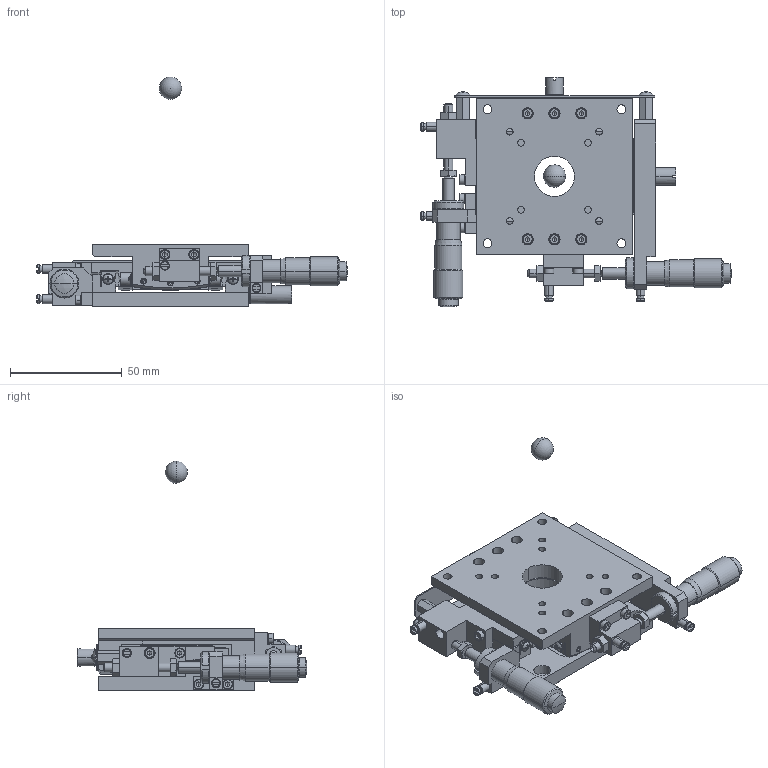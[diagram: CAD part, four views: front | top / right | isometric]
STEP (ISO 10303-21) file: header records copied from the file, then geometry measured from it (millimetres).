
FILE_DESCRIPTION (( 'STEP AP203' ), '1' );
FILE_NAME ('ST07A-S1W.STEP', '2009-10-01T05:39:18', ( ' ' ), ( ' ' ), 'SwSTEP 2.0', 'SolidWorks 2009', '' );
FILE_SCHEMA (( 'CONFIG_CONTROL_DESIGN' ));
Products named in the file (13): MICROMETERHEAD(SHS4-13RN)spindle; DP002651-1010-00-Part-1; DP002651-1030-00; ST07A-S1W; 海外製_SHS4-13RN; 海外製_SHS4-13RN-1; MICROMETERHEAD(SHS4-13RN)femalescrew; MICROMETERHEAD(SHS4-13RN)spindle-1; DP002651-1010-00; DP002651-1030-00-Part-1; DP002651-1020-00; DP002651-1020-00-Part-1; ST07A-S1W.sldasm-Part-1
Assembly tree (12 placements, depth 4):
  ST07A-S1W
    ST07A-S1W.sldasm-Part-1
    海外製_SHS4-13RN-1
      MICROMETERHEAD(SHS4-13RN)femalescrew
        MICROMETERHEAD(SHS4-13RN)spindle-1
    海外製_SHS4-13RN
      MICROMETERHEAD(SHS4-13RN)spindle
    DP002651-1010-00
      DP002651-1010-00-Part-1
    DP002651-1030-00
      DP002651-1030-00-Part-1
    DP002651-1020-00
      DP002651-1020-00-Part-1
Bounding box: 139.3 x 103 x 103 mm (x, y, z)
Volume: 121751.7 mm3; surface area: 68891.3 mm2
Topology: 6 solids, 76 shells, 2672 faces, 6037 edges, 3601 vertices
Faces by surface type: plane 1200, cylinder 851, cone 471, torus 120, sphere 30
Entity records: 78661 total; most frequent: CARTESIAN_POINT 16790, DIRECTION 13453, ORIENTED_EDGE 11846, EDGE_CURVE 5923, AXIS2_PLACEMENT_3D 5234, VERTEX_POINT 3598, EDGE_LOOP 3031, LINE 2985
